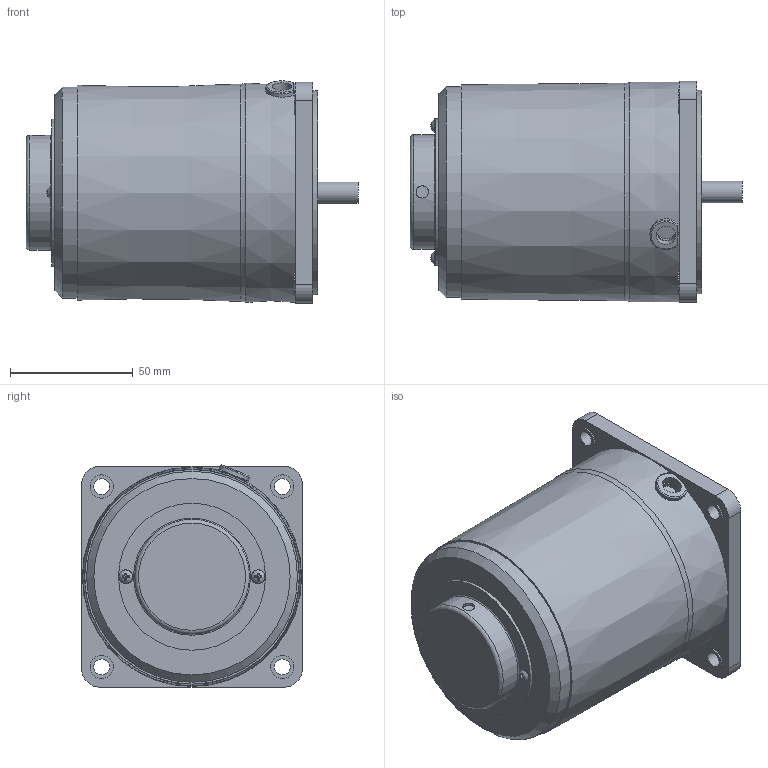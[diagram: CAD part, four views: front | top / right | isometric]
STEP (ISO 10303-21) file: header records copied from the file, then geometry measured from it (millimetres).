
FILE_DESCRIPTION((''),'2;1');
FILE_NAME('D:\STP파일\40W MOTOR\SPEED CONTROL TYPE\S9I40G-S.stp','2013-05-20T16:53:32',('leebh'),(''),'Autodesk Inventor 2011','Autodesk Inventor 2011','');
FILE_SCHEMA(('AUTOMOTIVE_DESIGN { 1 0 10303 214 1 1 1 1 }'));
Length unit declared in the file: millimetre
Products named in the file (1): 부품3
Bounding box: 135.3 x 90 x 90.6 mm (x, y, z)
Volume: 668200.1 mm3; surface area: 51681.4 mm2
Topology: 1 solids, 6 shells, 138 faces, 317 edges, 207 vertices
Faces by surface type: plane 82, cylinder 42, torus 9, cone 3, bspline 2
Full cylindrical faces by diameter (mm): 3 x2, 3.5 x2, 5 x1, 5.6 x2, 6.5 x4, 8 x1, 8.7 x1, 9.5 x4, 10 x1, 40 x1, 44.7 x1, 46.7 x1, 47.7 x1, 59.9 x1, 83 x1, 86 x1
Entity records: 4001 total; most frequent: CARTESIAN_POINT 947, DIRECTION 610, ORIENTED_EDGE 544, EDGE_CURVE 272, AXIS2_PLACEMENT_3D 232, EDGE_LOOP 209, VERTEX_POINT 201, VECTOR 146
